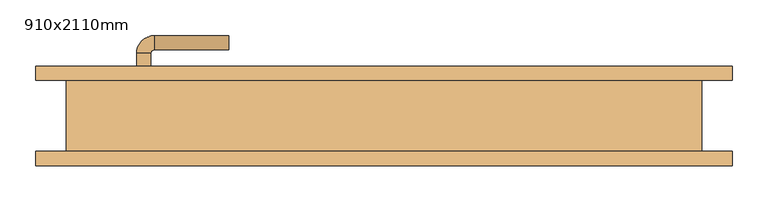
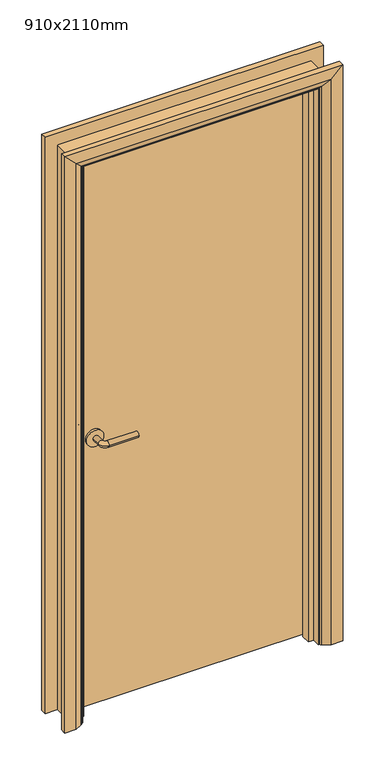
"""IFC4 building model written with IfcOpenShell, lengths in millimetres: door geometry, BIMHealth-Single_Door_841mm_Wide-LOD2A-v1 : 910x2110mm."""

from ifc_helpers import new_model, si_unit, point, frame, frame_2d, origin, place, context, project, spatial, polyline, circle_curve, ellipse_curve, trimmed, segment, composite_curve, outline, extrude, faceted_brep, source, transform, mapped, element, save
from ifc_brep_helpers import plane_surface, cylinder_surface, revolved_surface, advanced_brep


def door_910x2110mm_b2b4f311(model_context):
    return source(origin(), model_context, "Body", "SolidModel", [
        advanced_brep(
        [(-348.0, 4.0, 1000.0), (-328.0, 4.0, 1000.0), (-328.0, -26.0, 1000.0), (-348.0, -26.0, 1000.0), (-323.0, -31.0, 1000.0), (-323.0, -51.0, 1000.0), (-218.0, -51.0, 1000.0), (-218.0, -31.0, 1000.0)],
        [
            (0, 1, circle_curve(frame((-338.0, 4.0, 1000.0), z_axis=(0.0, 1.0, 0.0), x_axis=(1.0, 0.0, 0.0)), 10.0)),
            (1, 0, circle_curve(frame((-338.0, 4.0, 1000.0), z_axis=(0.0, 1.0, 0.0), x_axis=(1.0, 0.0, 0.0)), 10.0)),
            (1, 2),
            (2, 3, circle_curve(frame((-338.0, -26.0, 1000.0), z_axis=(0.0, 1.0, 0.0), x_axis=(1.0, 0.0, 0.0)), 10.0)),
            (3, 0),
            (3, 2, circle_curve(frame((-338.0, -26.0, 1000.0), z_axis=(0.0, 1.0, 0.0), x_axis=(1.0, 0.0, 0.0)), 10.0)),
            (4, 5, circle_curve(frame((-323.0, -41.0, 1000.0), z_axis=(-1.0, 0.0, 0.0), x_axis=(0.0, 1.0, 0.0)), 10.0)),
            (5, 3, circle_curve(frame((-323.0, -26.0, 1000.0), z_axis=(0.0, 0.0, -1.0), x_axis=(-1.0, 0.0, 0.0)), 25.0)),
            (2, 4, circle_curve(frame((-323.0, -26.0, 1000.0), z_axis=(0.0, 0.0, 1.0), x_axis=(-1.0, 0.0, 0.0)), 5.0)),
            (5, 4, circle_curve(frame((-323.0, -41.0, 1000.0), z_axis=(-1.0, 0.0, 0.0), x_axis=(0.0, 1.0, 0.0)), 10.0)),
            (6, 7, circle_curve(frame((-218.0, -41.0, 1000.0), z_axis=(1.0, 0.0, 0.0), x_axis=(0.0, 1.0, 0.0)), 10.0)),
            (7, 6, circle_curve(frame((-218.0, -41.0, 1000.0), z_axis=(1.0, 0.0, 0.0), x_axis=(0.0, 1.0, 0.0)), 10.0)),
            (4, 7),
            (6, 5),
        ],
        [
            plane_surface(frame((-338.0, 4.0, 1000.0), z_axis=(0.0, 1.0, 0.0), x_axis=(0.0, 0.0, 1.0))),
            cylinder_surface(frame((-338.0, 4.0, 1000.0), z_axis=(0.0, 1.0, 0.0), x_axis=(1.0, 0.0, 0.0)), 10.0),
            revolved_surface(trimmed(ellipse_curve(frame((-338.0, -26.0, 1000.0), z_axis=(0.0, -1.0, 0.0), x_axis=(1.0, 0.0, 0.0)), 10.0, 10.0), [point((-348.0, -26.0, 1000.0))], [point((-328.0, -26.0, 1000.0))], True, "CARTESIAN"), (-323.0, -26.0, 1000.0), (0.0, 0.0, -1.0)),
            revolved_surface(trimmed(ellipse_curve(frame((-338.0, -26.0, 1000.0), z_axis=(0.0, -1.0, 0.0), x_axis=(1.0, 0.0, 0.0)), 10.0, 10.0), [point((-328.0, -26.0, 1000.0))], [point((-348.0, -26.0, 1000.0))], True, "CARTESIAN"), (-323.0, -26.0, 1000.0), (0.0, 0.0, -1.0)),
            plane_surface(frame((-218.0, -41.0, 1000.0), z_axis=(1.0, 0.0, 0.0), x_axis=(0.0, 0.0, 1.0))),
            cylinder_surface(frame((-323.0, -41.0, 1000.0), z_axis=(-1.0, 0.0, 0.0), x_axis=(0.0, 1.0, 0.0)), 10.0),
        ],
        [
            (0, [[1, 2]]),
            (1, [[3, 4, 5, -2]]),
            (1, [[-5, 6, -3, -1]]),
            (2, [[7, 8, -4, 9]]),
            (3, [[10, -9, -6, -8]]),
            (4, [[11, 12]]),
            (5, [[13, -11, 14, -7]]),
            (5, [[-14, -12, -13, -10]]),
        ],
    ),
        extrude(outline(composite_curve([segment(trimmed(circle_curve(frame_2d((1000.0, -340.5)), 30.0), [point((1000.0, -370.5))], [point((1000.0, -310.5))], False, "CARTESIAN"), True, "CONTINUOUS"), segment(trimmed(circle_curve(frame_2d((1000.0, -340.5)), 30.0), [point((1000.0, -310.5))], [point((1000.0, -370.5))], False, "CARTESIAN"), True, "CONTINUOUS")], self_intersect=False)), frame((0.0, 4.0, 0.0), z_axis=(0.0, 1.0, 0.0), x_axis=(0.0, 0.0, 1.0)), (0.0, 0.0, 1.0), 8.0),
        advanced_brep(
        [(-348.0, 58.0, 1000.0), (-328.0, 58.0, 1000.0), (-348.0, 88.0, 1000.0), (-328.0, 88.0, 1000.0), (-323.0, 93.0, 1000.0), (-323.0, 113.0, 1000.0), (-218.0, 113.0, 1000.0), (-218.0, 93.0, 1000.0)],
        [
            (0, 1, circle_curve(frame((-338.0, 58.0, 1000.0), z_axis=(0.0, -1.0, 0.0), x_axis=(1.0, 0.0, 0.0)), 10.0)),
            (1, 0, circle_curve(frame((-338.0, 58.0, 1000.0), z_axis=(0.0, -1.0, 0.0), x_axis=(1.0, 0.0, 0.0)), 10.0)),
            (0, 2),
            (2, 3, circle_curve(frame((-338.0, 88.0, 1000.0), z_axis=(0.0, -1.0, 0.0), x_axis=(1.0, 0.0, 0.0)), 10.0)),
            (3, 1),
            (3, 2, circle_curve(frame((-338.0, 88.0, 1000.0), z_axis=(0.0, -1.0, 0.0), x_axis=(1.0, 0.0, 0.0)), 10.0)),
            (4, 3, circle_curve(frame((-323.0, 88.0, 1000.0), z_axis=(0.0, 0.0, 1.0), x_axis=(-1.0, 0.0, 0.0)), 5.0)),
            (2, 5, circle_curve(frame((-323.0, 88.0, 1000.0), z_axis=(0.0, 0.0, -1.0), x_axis=(-1.0, 0.0, 0.0)), 25.0)),
            (5, 4, circle_curve(frame((-323.0, 103.0, 1000.0), z_axis=(-1.0, 0.0, 0.0), x_axis=(0.0, -1.0, 0.0)), 10.0)),
            (4, 5, circle_curve(frame((-323.0, 103.0, 1000.0), z_axis=(-1.0, 0.0, 0.0), x_axis=(0.0, -1.0, 0.0)), 10.0)),
            (6, 7, circle_curve(frame((-218.0, 103.0, 1000.0), z_axis=(1.0, 0.0, 0.0), x_axis=(0.0, -1.0, 0.0)), 10.0)),
            (7, 6, circle_curve(frame((-218.0, 103.0, 1000.0), z_axis=(1.0, 0.0, 0.0), x_axis=(0.0, -1.0, 0.0)), 10.0)),
            (5, 6),
            (7, 4),
        ],
        [
            plane_surface(frame((-338.0, 58.0, 1000.0), z_axis=(0.0, -1.0, 0.0), x_axis=(0.0, 0.0, 1.0))),
            cylinder_surface(frame((-338.0, 58.0, 1000.0), z_axis=(0.0, -1.0, 0.0), x_axis=(1.0, 0.0, 0.0)), 10.0),
            revolved_surface(trimmed(ellipse_curve(frame((-338.0, 88.0, 1000.0), z_axis=(0.0, -1.0, 0.0), x_axis=(1.0, 0.0, 0.0)), 10.0, 10.0), [point((-348.0, 88.0, 1000.0))], [point((-328.0, 88.0, 1000.0))], True, "CARTESIAN"), (-323.0, 88.0, 1000.0), (0.0, 0.0, -1.0)),
            revolved_surface(trimmed(ellipse_curve(frame((-338.0, 88.0, 1000.0), z_axis=(0.0, -1.0, 0.0), x_axis=(1.0, 0.0, 0.0)), 10.0, 10.0), [point((-328.0, 88.0, 1000.0))], [point((-348.0, 88.0, 1000.0))], True, "CARTESIAN"), (-323.0, 88.0, 1000.0), (0.0, 0.0, -1.0)),
            plane_surface(frame((-218.0, 103.0, 1000.0), z_axis=(1.0, 0.0, 0.0), x_axis=(0.0, 0.0, 1.0))),
            cylinder_surface(frame((-323.0, 103.0, 1000.0), z_axis=(-1.0, 0.0, 0.0), x_axis=(0.0, -1.0, 0.0)), 10.0),
        ],
        [
            (0, [[1, 2]]),
            (1, [[-1, 3, 4, 5]]),
            (1, [[-2, -5, 6, -3]]),
            (2, [[7, -4, 8, 9]]),
            (3, [[-8, -6, -7, 10]]),
            (4, [[11, 12]]),
            (5, [[-9, 13, -12, 14]]),
            (5, [[-10, -14, -11, -13]]),
        ],
    ),
        extrude(outline(composite_curve([segment(trimmed(circle_curve(frame_2d((1000.0, -340.5)), 30.0), [point((1000.0, -370.5))], [point((1000.0, -310.5))], False, "CARTESIAN"), True, "CONTINUOUS"), segment(trimmed(circle_curve(frame_2d((1000.0, -340.5)), 30.0), [point((1000.0, -310.5))], [point((1000.0, -370.5))], False, "CARTESIAN"), True, "CONTINUOUS")], self_intersect=False)), frame((0.0, 50.0, 0.0), z_axis=(0.0, 1.0, 0.0), x_axis=(0.0, 0.0, 1.0)), (0.0, 0.0, 1.0), 8.0),
        extrude(outline(polyline([(413.0, 12.0), (-413.0, 12.0), (-413.0, 50.0), (413.0, 50.0), (413.0, 12.0)])), frame((0.0, 0.0, 8.0), z_axis=(0.0, 0.0, 1.0), x_axis=(1.0, 0.0, 0.0)), (0.0, 0.0, 1.0), 2060.0),
        advanced_brep(
        [(490.0, 70.0, 0.0), (490.0, 50.0, 0.0), (420.0, 50.0, 0.0), (424.0, 56.0, 0.0), (450.0, 70.0, 0.0), (490.0, 70.0, 2145.0), (490.0, 50.0, 2145.0), (-490.0, 50.0, 2145.0), (-490.0, 50.0, 0.0), (-420.0, 50.0, 0.0), (-420.0, 50.0, 2075.0), (420.0, 50.0, 2075.0), (424.0, 56.0, 2079.0), (450.0, 70.0, 2105.0), (-450.0, 70.0, 2105.0), (-450.0, 70.0, 0.0), (-490.0, 70.0, 0.0), (-490.0, 70.0, 2145.0), (-424.0, 56.0, 0.0), (-424.0, 56.0, 2079.0)],
        [
            (0, 1),
            (1, 2),
            (2, 3, circle_curve(frame((428.0, 49.0, 0.0), z_axis=(0.0, 0.0, -1.0), x_axis=(1.0, 0.0, 0.0)), 8.0622577)),
            (3, 4),
            (4, 0),
            (0, 5),
            (5, 6),
            (6, 1),
            (6, 7),
            (7, 8),
            (8, 9),
            (9, 10),
            (10, 11),
            (11, 2),
            (11, 12, ellipse_curve(frame((428.0, 49.0, 2083.0), z_axis=(0.7071067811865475, 0.0, -0.7071067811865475), x_axis=(-0.7071067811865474, 0.0, -0.7071067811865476)), 11.4017543, 8.0622577)),
            (12, 3),
            (12, 13),
            (13, 4),
            (13, 14),
            (14, 15),
            (15, 16),
            (16, 17),
            (17, 5),
            (7, 17),
            (16, 8),
            (15, 18),
            (18, 9, circle_curve(frame((-428.0, 49.0, 0.0), z_axis=(0.0, 0.0, -1.0), x_axis=(-1.0, 0.0, 0.0)), 8.0622577)),
            (19, 10, ellipse_curve(frame((-428.0, 49.0, 2083.0), z_axis=(-0.7071067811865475, 0.0, -0.7071067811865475), x_axis=(-0.7071067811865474, 0.0, 0.7071067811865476)), 11.4017543, 8.0622577)),
            (18, 19),
            (14, 19),
            (19, 12),
        ],
        [
            plane_surface(frame((420.0, 50.0, 0.0), z_axis=(0.0, 0.0, -1.0), x_axis=(0.0, -1.0, 0.0))),
            plane_surface(frame((490.0, 70.0, 0.0), z_axis=(1.0, 0.0, 0.0), x_axis=(0.0, 0.0, 1.0))),
            plane_surface(frame((490.0, 50.0, 0.0), z_axis=(0.0, -1.0, 0.0), x_axis=(0.0, 0.0, 1.0))),
            cylinder_surface(frame((428.0, 49.0, 0.0), z_axis=(0.0, 0.0, -1.0), x_axis=(1.0, 0.0, 0.0)), 8.0622577),
            plane_surface(frame((424.0, 56.0, 0.0), z_axis=(-0.4740998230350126, 0.880471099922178, 0.0), x_axis=(0.0, 0.0, 1.0))),
            plane_surface(frame((450.0, 70.0, 0.0), z_axis=(0.0, 1.0, 0.0), x_axis=(0.0, 0.0, 1.0))),
            plane_surface(frame((-490.0, 70.0, 2145.0), z_axis=(-1.0, 0.0, 0.0), x_axis=(0.0, 0.0, -1.0))),
            plane_surface(frame((-420.0, 50.0, 0.0), z_axis=(0.0, 0.0, -1.0), x_axis=(0.0, -1.0, 0.0))),
            cylinder_surface(frame((-428.0, 49.0, 2075.0), z_axis=(0.0, 0.0, 1.0), x_axis=(-1.0, 0.0, 0.0)), 8.0622577),
            plane_surface(frame((-424.0, 56.0, 2079.0), z_axis=(0.47409982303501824, 0.8804710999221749, 0.0), x_axis=(0.0, 0.0, -1.0))),
            plane_surface(frame((490.0, 70.0, 2145.0), z_axis=(0.0, 0.0, 1.0), x_axis=(-1.0, 0.0, 0.0))),
            cylinder_surface(frame((420.0, 49.0, 2083.0), z_axis=(1.0, 0.0, 0.0), x_axis=(0.0, 0.0, 1.0)), 8.0622577),
            plane_surface(frame((424.0, 56.0, 2079.0), z_axis=(0.0, 0.8804710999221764, -0.4740998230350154), x_axis=(-1.0, 0.0, 0.0))),
        ],
        [
            (0, [[1, 2, 3, 4, 5]]),
            (1, [[-1, 6, 7, 8]]),
            (2, [[-2, -8, 9, 10, 11, 12, 13, 14]]),
            (3, [[-3, -14, 15, 16]]),
            (4, [[-4, -16, 17, 18]]),
            (5, [[-5, -18, 19, 20, 21, 22, 23, -6]]),
            (6, [[24, -22, 25, -10]]),
            (7, [[-21, 26, 27, -11, -25]]),
            (8, [[28, -12, -27, 29]]),
            (9, [[30, -29, -26, -20]]),
            (10, [[-7, -23, -24, -9]]),
            (11, [[-15, -13, -28, 31]]),
            (12, [[-17, -31, -30, -19]]),
        ],
    ),
        extrude(outline(polyline([(0.0, -415.0), (0.0, -396.0), (2051.0, -396.0), (2051.0, 396.0), (0.0, 396.0), (0.0, 415.0), (2070.0, 415.0), (2070.0, -415.0), (0.0, -415.0)])), frame((0.0, -22.0, 0.0), z_axis=(0.0, 1.0, 0.0), x_axis=(0.0, 0.0, 1.0)), (0.0, 0.0, 1.0), 32.0),
        advanced_brep(
        [(-490.0, -70.0, 0.0), (-490.0, -50.0, 0.0), (-420.0, -50.0, 0.0), (-424.0, -56.0, 0.0), (-450.0, -70.0, 0.0), (-490.0, -70.0, 2145.0), (-490.0, -50.0, 2145.0), (-420.0, -50.0, 2075.0), (-424.0, -56.0, 2079.0), (-450.0, -70.0, 2105.0), (490.0, -70.0, 0.0), (450.0, -70.0, 0.0), (424.0, -56.0, 0.0), (420.0, -50.0, 0.0), (490.0, -50.0, 0.0), (490.0, -70.0, 2145.0), (450.0, -70.0, 2105.0), (424.0, -56.0, 2079.0), (420.0, -50.0, 2075.0), (490.0, -50.0, 2145.0)],
        [
            (0, 1),
            (1, 2),
            (2, 3, circle_curve(frame((-428.0, -49.0, 0.0), z_axis=(0.0, 0.0, -1.0), x_axis=(-1.0, 0.0, 0.0)), 8.0622577)),
            (3, 4),
            (4, 0),
            (0, 5),
            (5, 6),
            (6, 1),
            (6, 7),
            (7, 2),
            (7, 8, ellipse_curve(frame((-428.0, -49.0, 2083.0), z_axis=(-0.7071067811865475, 0.0, -0.7071067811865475), x_axis=(0.7071067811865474, 0.0, -0.7071067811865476)), 11.4017543, 8.0622577)),
            (8, 3),
            (8, 9),
            (9, 4),
            (9, 5),
            (10, 11),
            (11, 12),
            (12, 13, circle_curve(frame((428.0, -49.0, 0.0), z_axis=(0.0, 0.0, -1.0), x_axis=(1.0, 0.0, 0.0)), 8.0622577)),
            (13, 14),
            (14, 10),
            (15, 16),
            (16, 11),
            (10, 15),
            (16, 17),
            (17, 12),
            (17, 18, ellipse_curve(frame((428.0, -49.0, 2083.0), z_axis=(0.7071067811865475, 0.0, -0.7071067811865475), x_axis=(0.7071067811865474, 0.0, 0.7071067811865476)), 11.4017543, 8.0622577)),
            (18, 13),
            (18, 19),
            (19, 14),
            (19, 15),
            (5, 15),
            (19, 6),
            (18, 7),
            (17, 8),
            (16, 9),
        ],
        [
            plane_surface(frame((-420.0, -122.8010989, 0.0), z_axis=(0.0, 0.0, -1.0), x_axis=(1.0, 0.0, 0.0))),
            plane_surface(frame((-490.0, -70.0, 0.0), z_axis=(-1.0, 0.0, 0.0), x_axis=(0.0, 0.0, 1.0))),
            plane_surface(frame((-490.0, -50.0, 0.0), z_axis=(0.0, 1.0, 0.0), x_axis=(0.0, 0.0, 1.0))),
            cylinder_surface(frame((-428.0, -49.0, 0.0), z_axis=(0.0, 0.0, -1.0), x_axis=(-1.0, 0.0, 0.0)), 8.0622577),
            plane_surface(frame((-424.0, -56.0, 0.0), z_axis=(0.4740998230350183, -0.8804710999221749, 0.0), x_axis=(0.0, 0.0, 1.0))),
            plane_surface(frame((-450.0, -70.0, 0.0), z_axis=(0.0, -1.0, 0.0), x_axis=(0.0, 0.0, 1.0))),
            plane_surface(frame((420.0, -122.8010989, 0.0), z_axis=(0.0, 0.0, -1.0), x_axis=(-1.0, 0.0, 0.0))),
            plane_surface(frame((450.0, -70.0, 2105.0), z_axis=(0.0, -1.0, 0.0), x_axis=(0.0, 0.0, -1.0))),
            plane_surface(frame((424.0, -56.0, 2079.0), z_axis=(-0.4740998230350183, -0.8804710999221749, 0.0), x_axis=(0.0, 0.0, -1.0))),
            cylinder_surface(frame((428.0, -49.0, 2075.0), z_axis=(0.0, 0.0, 1.0), x_axis=(1.0, 0.0, 0.0)), 8.0622577),
            plane_surface(frame((490.0, -50.0, 2145.0), z_axis=(0.0, 1.0, 0.0), x_axis=(0.0, 0.0, -1.0))),
            plane_surface(frame((490.0, -70.0, 2145.0), z_axis=(1.0, 0.0, 0.0), x_axis=(0.0, 0.0, -1.0))),
            plane_surface(frame((-490.0, -70.0, 2145.0), z_axis=(0.0, 0.0, 1.0), x_axis=(1.0, 0.0, 0.0))),
            plane_surface(frame((-490.0, -50.0, 2145.0), z_axis=(0.0, 1.0, 0.0), x_axis=(1.0, 0.0, 0.0))),
            cylinder_surface(frame((-420.0, -49.0, 2083.0), z_axis=(-1.0, 0.0, 0.0), x_axis=(0.0, 0.0, 1.0)), 8.0622577),
            plane_surface(frame((-424.0, -56.0, 2079.0), z_axis=(0.0, -0.8804710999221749, -0.4740998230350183), x_axis=(1.0, 0.0, 0.0))),
            plane_surface(frame((-450.0, -70.0, 2105.0), z_axis=(0.0, -1.0, 0.0), x_axis=(1.0, 0.0, 0.0))),
        ],
        [
            (0, [[1, 2, 3, 4, 5]]),
            (1, [[-1, 6, 7, 8]]),
            (2, [[-2, -8, 9, 10]]),
            (3, [[-3, -10, 11, 12]]),
            (4, [[-4, -12, 13, 14]]),
            (5, [[-5, -14, 15, -6]]),
            (6, [[16, 17, 18, 19, 20]]),
            (7, [[21, 22, -16, 23]]),
            (8, [[24, 25, -17, -22]]),
            (9, [[26, 27, -18, -25]]),
            (10, [[28, 29, -19, -27]]),
            (11, [[30, -23, -20, -29]]),
            (12, [[-7, 31, -30, 32]]),
            (13, [[-9, -32, -28, 33]]),
            (14, [[-11, -33, -26, 34]]),
            (15, [[-13, -34, -24, 35]]),
            (16, [[-15, -35, -21, -31]]),
        ],
    ),
        faceted_brep([(-415.0, 50.0, 0.0), (-415.0, -50.0, 0.0), (-447.0, -50.0, 0.0), (-447.0, 50.0, 0.0), (-415.0, 50.0, 2070.0), (-415.0, -50.0, 2070.0), (-447.0, -50.0, 2102.0), (-447.0, 50.0, 2102.0), (415.0, 50.0, 0.0), (447.0, 50.0, 0.0), (447.0, -50.0, 0.0), (415.0, -50.0, 0.0), (415.0, 50.0, 2070.0), (447.0, 50.0, 2102.0), (447.0, -50.0, 2102.0), (415.0, -50.0, 2070.0)], [[[0, 1, 2, 3]], [[1, 0, 4, 5]], [[2, 1, 5, 6]], [[3, 2, 6, 7]], [[0, 3, 7, 4]], [[8, 9, 10, 11]], [[12, 13, 9, 8]], [[13, 14, 10, 9]], [[14, 15, 11, 10]], [[15, 12, 8, 11]], [[5, 4, 12, 15]], [[6, 5, 15, 14]], [[7, 6, 14, 13]], [[4, 7, 13, 12]]]),
    ])


if __name__ == "__main__":
    model = new_model("IFC4")
    model_context = context("Model", 3, world=origin())
    ifc_project = project(units=[si_unit("LENGTHUNIT", "METRE", prefix="MILLI")], contexts=[model_context])
    site = spatial("IfcSite", under=ifc_project)
    building = spatial("IfcBuilding", under=site)
    placement = place(None, origin())
    door_910x2110mm_shape = door_910x2110mm_b2b4f311(model_context)
    element("IfcDoor", 1, ObjectType="BIMHealth-Single_Door_841mm_Wide-LOD2A-v1 : 910x2110mm", at=placement, inside=building, context=model_context, shape_type="MappedRepresentation", body=[
        mapped(door_910x2110mm_shape, transform((0.0, 0.0, 0.0), x_axis=(1.0, 0.0, 0.0), y_axis=(0.0, 1.0, 0.0), z_axis=(0.0, 0.0, 1.0))),
    ])
    save(model, "model.ifc")
